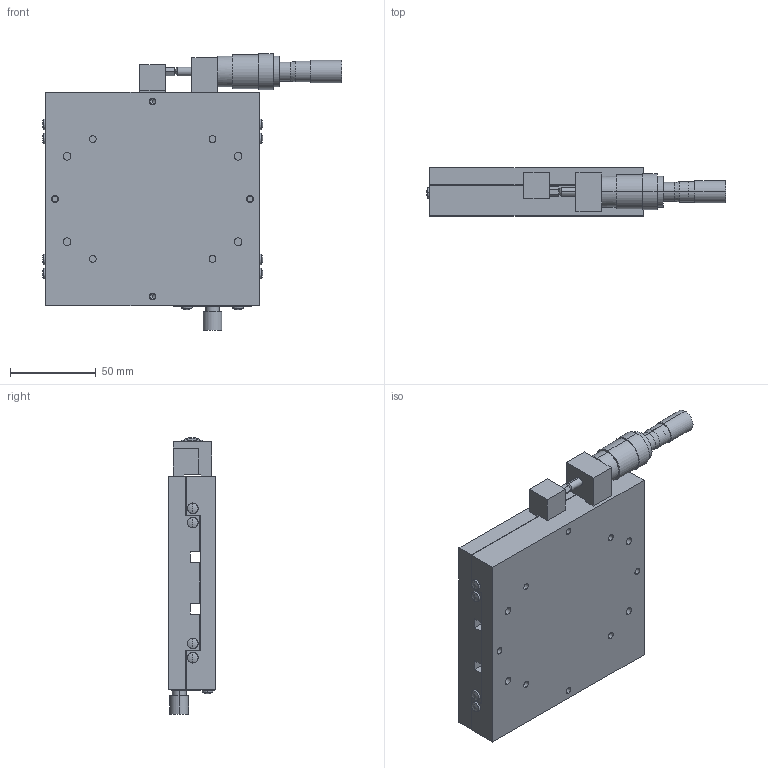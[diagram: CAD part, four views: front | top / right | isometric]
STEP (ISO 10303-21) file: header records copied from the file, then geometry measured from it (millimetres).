
FILE_DESCRIPTION (( 'STEP AP203' ), '1' );
FILE_NAME ('LS-131-S2.STEP', '2008-04-03T05:37:35', ( '' ), ( '' ), 'SwSTEP 2.0', 'SolidWorks 2007', '' );
FILE_SCHEMA (( 'CONFIG_CONTROL_DESIGN' ));
Length unit declared in the file: millimetre
Products named in the file (3): LS-131-S2-2_蹬怮椔; LS-131-S2-1_蹬怮椔; LS-131-S2
Assembly tree (2 placements, depth 2):
  LS-131-S2
    LS-131-S2-1_蹬怮椔
    LS-131-S2-2_蹬怮椔
Bounding box: 174.9 x 28 x 161.8 mm (x, y, z)
Volume: 439343.5 mm3; surface area: 99540.5 mm2
Topology: 3 solids, 3 shells, 341 faces, 813 edges, 517 vertices
Faces by surface type: cylinder 169, plane 106, cone 46, sphere 18, bspline 2
Entity records: 10642 total; most frequent: CARTESIAN_POINT 2066, DIRECTION 1877, ORIENTED_EDGE 1578, EDGE_CURVE 789, AXIS2_PLACEMENT_3D 748, VERTEX_POINT 517, EDGE_LOOP 458, CIRCLE 404
